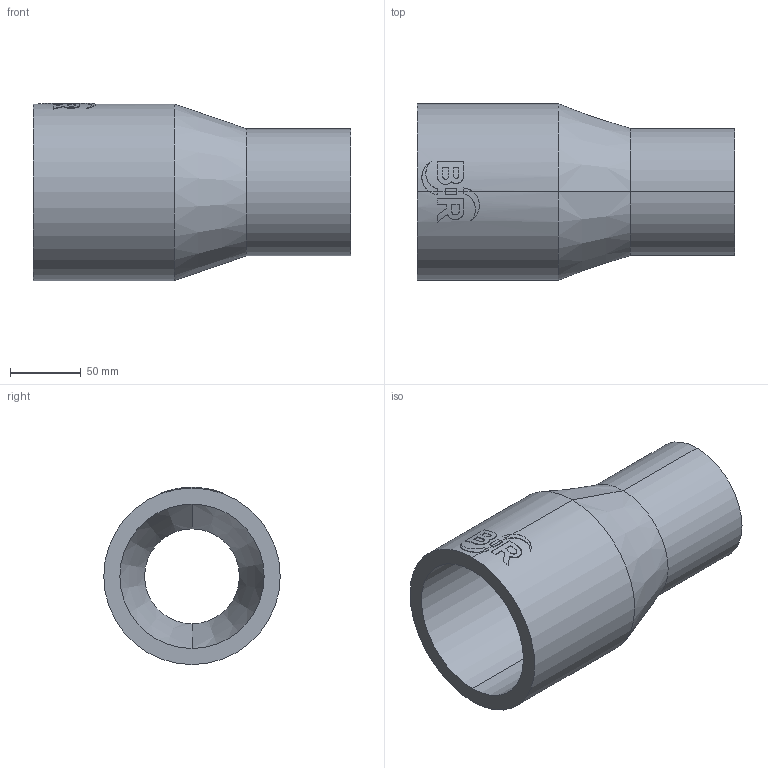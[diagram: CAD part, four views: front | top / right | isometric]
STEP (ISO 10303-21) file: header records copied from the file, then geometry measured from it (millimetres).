
FILE_DESCRIPTION (( 'STEP AP214' ), '1' );
FILE_NAME ('2323151315.STEP', '2018-07-20T09:36:30', ( '' ), ( '' ), 'SwSTEP 2.0', 'SolidWorks 2017', '' );
FILE_SCHEMA (( 'AUTOMOTIVE_DESIGN' ));
Length unit declared in the file: millimetre
Products named in the file (1): 2323151315
Bounding box: 225 x 125 x 125.46 mm (x, y, z)
Volume: 799828.2 mm3; surface area: 147324 mm2
Topology: 1 solids, 1 shells, 63 faces, 160 edges, 104 vertices
Faces by surface type: cylinder 31, plane 28, cone 4
Entity records: 3201 total; most frequent: CARTESIAN_POINT 992, ORIENTED_EDGE 320, DIRECTION 296, EDGE_CURVE 160, AXIS2_PLACEMENT_3D 112, VERTEX_POINT 104, LINE 72, VECTOR 72
